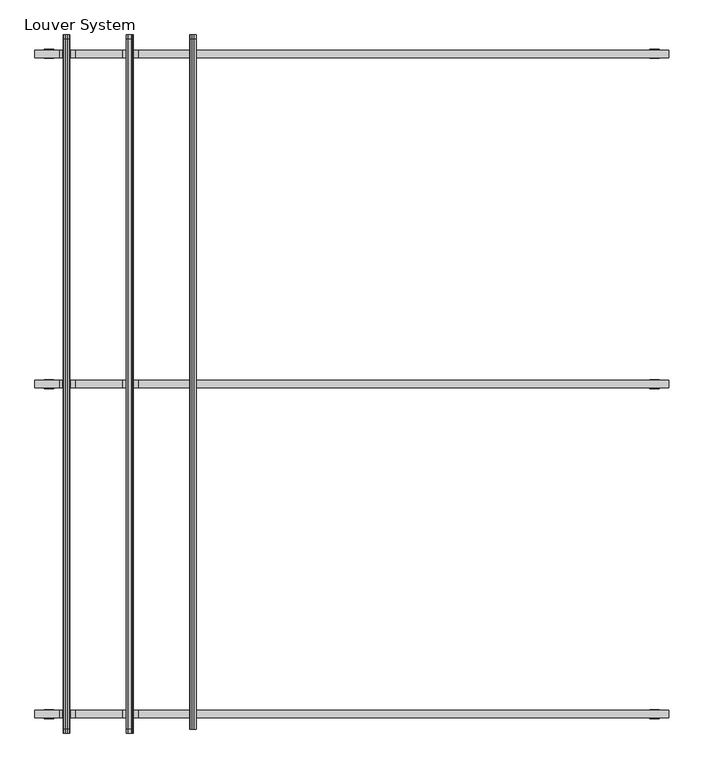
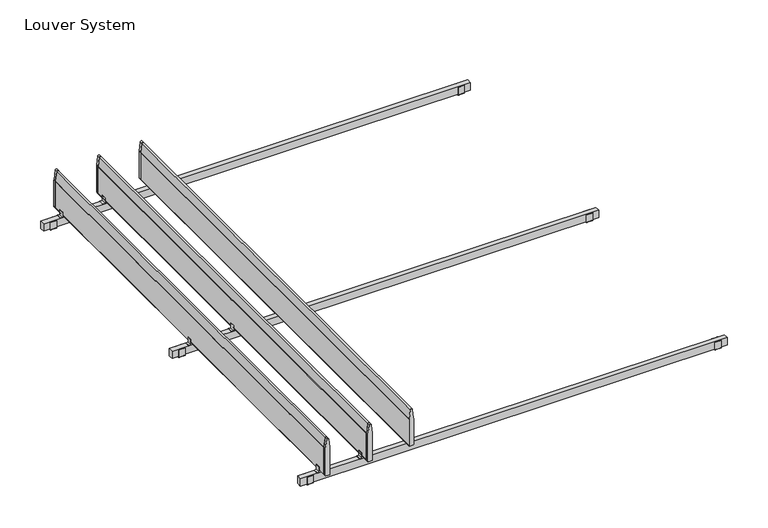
"""IFC4 building model written with IfcOpenShell, lengths in millimetres: geographic element geometry, Site_Danpal_AURA-Louvers : Louver System."""

import ifcopenshell
import ifcopenshell.guid

model = None  # the IFC model being written
_history = None  # IfcOwnerHistory: only IFC2X3 demands one
_inside = {}  # id of a spatial element -> (the spatial element, [elements in it])
_under = {}  # id of a project, library or spatial element -> (it, [spatial elements below it])
_declared = {}  # id of a project -> (the project, [libraries it declares])
_typed = {}  # id of a type object -> (the type object, [elements of that type])
_made_of = {}  # id of a material, layer set ... -> (it, [elements and type objects made of it])


def new_model(schema):
    """Start an empty IFC model of exactly this schema.

    Asked for "IFC4X3", IfcOpenShell would pick the latest addendum, in which some entities
    have other attributes; the version numbers below select the first issue.
    IFC2X3 requires an IfcOwnerHistory on every rooted entity: one is made here for all.
    """
    global model, _history
    if schema == "IFC4X3":
        model = ifcopenshell.file(schema_version=(4, 3, 0, 0))
    else:
        model = ifcopenshell.file(schema=schema)
    _inside.clear()
    _under.clear()
    _declared.clear()
    _typed.clear()
    _made_of.clear()
    _history = None
    if model.schema == "IFC2X3":
        org = make("IfcOrganization", Name="unknown")
        user = make(
            "IfcPersonAndOrganization",
            ThePerson=make("IfcPerson", FamilyName="unknown"),
            TheOrganization=org,
        )
        app = make(
            "IfcApplication",
            ApplicationDeveloper=org,
            Version="unknown",
            ApplicationFullName="unknown",
            ApplicationIdentifier="unknown",
        )
        _history = make(
            "IfcOwnerHistory",
            OwningUser=user,
            OwningApplication=app,
            ChangeAction="ADDED",
            CreationDate=0,
        )
    return model


def make(cls, **values):
    """One entity of the class cls with the attributes given. An attribute that is None is left unset."""
    return model.create_entity(
        cls, **{name: value for name, value in values.items() if value is not None}
    )


def rooted(cls, **values):
    """An entity with a GlobalId (a new one), such as an element, a storey or a relation."""
    return make(cls, GlobalId=ifcopenshell.guid.new(), OwnerHistory=_history, **values)


def si_unit(unit_type, name, prefix=None):
    """IfcSIUnit, for example si_unit("LENGTHUNIT", "METRE", prefix="MILLI")."""
    return make("IfcSIUnit", UnitType=unit_type, Prefix=prefix, Name=name)


def assignment(units):
    """IfcUnitAssignment: the units of a project."""
    return None if units is None else make("IfcUnitAssignment", Units=units)


def point(xyz):
    """IfcCartesianPoint."""
    return None if xyz is None else make("IfcCartesianPoint", Coordinates=xyz)


def direction(xyz):
    """IfcDirection."""
    return None if xyz is None else make("IfcDirection", DirectionRatios=xyz)


def frame(location, z_axis=None, x_axis=None):
    """IfcAxis2Placement3D, a coordinate frame: its origin and axes. An axis left out is left unset."""
    return make(
        "IfcAxis2Placement3D",
        Location=point(location),
        Axis=direction(z_axis),
        RefDirection=direction(x_axis),
    )


def frame_2d(location, x_axis=None):
    """IfcAxis2Placement2D, a coordinate frame in the plane: its origin and x axis."""
    return make(
        "IfcAxis2Placement2D", Location=point(location), RefDirection=direction(x_axis)
    )


def origin():
    """The frame at (0, 0, 0) with its axes left unset."""
    return frame((0.0, 0.0, 0.0))


def place(relative_to, where):
    """IfcLocalPlacement: puts the frame where relative to a parent placement (None: the world)."""
    return make(
        "IfcLocalPlacement", PlacementRelTo=relative_to, RelativePlacement=where
    )


def context(
    kind, dimensions, precision=None, world=None, true_north=None, identifier=None
):
    """IfcGeometricRepresentationContext, for example the 3D "Model" context."""
    return make(
        "IfcGeometricRepresentationContext",
        ContextIdentifier=identifier,
        ContextType=kind,
        CoordinateSpaceDimension=dimensions,
        Precision=precision,
        WorldCoordinateSystem=world,
        TrueNorth=true_north,
    )


def project(units=None, contexts=None):
    """IfcProject with its units and contexts."""
    return rooted(
        "IfcProject",
        Name="project",
        RepresentationContexts=contexts,
        UnitsInContext=assignment(units),
    )


def spatial(cls, under=None, at=None, **own):
    """A site, building, storey or space (cls), placed at a placement, below another one or the project."""
    s = rooted(cls, ObjectPlacement=at, **own)
    if under is not None:
        _under.setdefault(under.id(), (under, []))[1].append(s)
    return s


def polyline(points):
    """IfcPolyline through the points."""
    return make("IfcPolyline", Points=[point(p) for p in points])


def circle_curve(where, radius):
    """IfcCircle in the frame where."""
    return make("IfcCircle", Position=where, Radius=radius)


def trimmed(basis, trim1, trim2, sense, master):
    """IfcTrimmedCurve: the piece of a basis curve between two trims."""
    return make(
        "IfcTrimmedCurve",
        BasisCurve=basis,
        Trim1=trim1,
        Trim2=trim2,
        SenseAgreement=sense,
        MasterRepresentation=master,
    )


def segment(curve, same_sense, transition):
    """IfcCompositeCurveSegment."""
    return make(
        "IfcCompositeCurveSegment",
        Transition=transition,
        SameSense=same_sense,
        ParentCurve=curve,
    )


def composite_curve(segments, self_intersect=None):
    """IfcCompositeCurve: segments joined end to end."""
    return make("IfcCompositeCurve", Segments=segments, SelfIntersect=self_intersect)


def outline(outer, holes=None, kind="AREA"):
    """IfcArbitraryClosedProfileDef: a profile drawn as a closed curve; with holes, ...WithVoids."""
    if holes is None:
        return make("IfcArbitraryClosedProfileDef", ProfileType=kind, OuterCurve=outer)
    return make(
        "IfcArbitraryProfileDefWithVoids",
        ProfileType=kind,
        OuterCurve=outer,
        InnerCurves=holes,
    )


def extrude(swept, where, along, depth):
    """IfcExtrudedAreaSolid: the profile swept, set in the frame where, extruded along a direction by depth."""
    return make(
        "IfcExtrudedAreaSolid",
        SweptArea=swept,
        Position=where,
        ExtrudedDirection=direction(along),
        Depth=depth,
    )


def shape(context_of_items, identifier, shape_type, items):
    """IfcShapeRepresentation: the items that make up one representation, for example the "Body"."""
    return make(
        "IfcShapeRepresentation",
        ContextOfItems=context_of_items,
        RepresentationIdentifier=identifier,
        RepresentationType=shape_type,
        Items=items,
    )


def source(mapping_origin, context_of_items, identifier, shape_type, items):
    """IfcRepresentationMap: a shape defined once, which mapped items show again and again."""
    return make(
        "IfcRepresentationMap",
        MappingOrigin=mapping_origin,
        MappedRepresentation=shape(context_of_items, identifier, shape_type, items),
    )


def transform(
    local_origin,
    x_axis=None,
    y_axis=None,
    z_axis=None,
    scale=None,
    scale2=None,
    scale3=None,
    uniform=True,
):
    """IfcCartesianTransformationOperator3D, or its non-uniform kind. x_axis, y_axis, z_axis: its Axis1, 2, 3."""
    if uniform:
        return make(
            "IfcCartesianTransformationOperator3D",
            Axis1=direction(x_axis),
            Axis2=direction(y_axis),
            LocalOrigin=point(local_origin),
            Scale=scale,
            Axis3=direction(z_axis),
        )
    return make(
        "IfcCartesianTransformationOperator3DnonUniform",
        Axis1=direction(x_axis),
        Axis2=direction(y_axis),
        LocalOrigin=point(local_origin),
        Scale=scale,
        Axis3=direction(z_axis),
        Scale2=scale2,
        Scale3=scale3,
    )


def mapped(mapping_source, mapping_target):
    """IfcMappedItem: shows the shape of a source again, moved by a transform."""
    return make(
        "IfcMappedItem", MappingSource=mapping_source, MappingTarget=mapping_target
    )


def made_of(thing, what):
    """Note that an element or type object is made of a material, layer set ...; save() writes the relation."""
    if what is not None:
        _made_of.setdefault(what.id(), (what, []))[1].append(thing)
    return thing


def element(
    cls,
    number,
    at=None,
    inside=None,
    cuts=None,
    type_object=None,
    material=None,
    context=None,
    identifier="Body",
    shape_type=None,
    held_by="IfcProductDefinitionShape",
    body=None,
    shapes=None,
    **own,
):
    """One element of the class cls, such as IfcWall. Its Tag is "e" and its number.

    at: its placement. inside: the storey or other place that contains it. cuts: it is an
    opening in that element (IfcRelVoidsElement). A single representation is given by context,
    identifier, shape_type and body (its items); several are given by shapes. held_by: the class
    of the entity that holds the representations. save() writes the other relations.
    """
    e = rooted(cls, Tag="e%d" % number, ObjectPlacement=at, **own)
    if body is not None:
        shapes = [shape(context, identifier, shape_type, body)]
    if shapes is not None:
        e.Representation = make(held_by, Representations=shapes)
    if inside is not None:
        _inside.setdefault(inside.id(), (inside, []))[1].append(e)
    if cuts is not None:
        rooted(
            "IfcRelVoidsElement", RelatingBuildingElement=cuts, RelatedOpeningElement=e
        )
    if type_object is not None:
        _typed.setdefault(type_object.id(), (type_object, []))[1].append(e)
    return made_of(e, material)


def aggregate(whole, parts):
    """IfcRelAggregates: a whole, such as a stair, and the parts it consists of."""
    return rooted("IfcRelAggregates", RelatingObject=whole, RelatedObjects=parts)


def save(model, path):
    """Write the relations noted so far, then the file.

    IfcRelAggregates (storeys below a building ...), IfcRelContainedInSpatialStructure (elements
    in a storey), IfcRelDefinesByType, IfcRelAssociatesMaterial and IfcRelDeclares: one each for
    every whole, place, type object, material and project.
    """
    for whole, parts in _under.values():
        aggregate(whole, parts)
    for where, things in _inside.values():
        rooted(
            "IfcRelContainedInSpatialStructure",
            RelatedElements=things,
            RelatingStructure=where,
        )
    for kind, things in _typed.values():
        rooted("IfcRelDefinesByType", RelatedObjects=things, RelatingType=kind)
    for what, things in _made_of.values():
        rooted("IfcRelAssociatesMaterial", RelatedObjects=things, RelatingMaterial=what)
    for by, libraries in _declared.values():
        rooted("IfcRelDeclares", RelatingContext=by, RelatedDefinitions=libraries)
    model.write(path)


def louver_system_3ba4f6a6(model_context):
    return source(origin(), model_context, "Body", "SweptSolid", [
        extrude(outline(composite_curve([segment(trimmed(circle_curve(frame_2d((309.4816555, -845.1)), 32.6237184), [point((309.4816555, -812.4762816))], [point((313.7306269, -812.7541619))], False, "CARTESIAN"), True, "CONTINUOUS"), segment(polyline([(313.7306269, -812.7541619), (387.4745822, -822.4412184)]), True, "CONTINUOUS"), segment(trimmed(circle_curve(frame_2d((386.4816555, -830.0)), 7.6237184), [point((387.4745822, -822.4412184))], [point((387.4745822, -837.5587816))], False, "CARTESIAN"), True, "CONTINUOUS"), segment(polyline([(387.4745822, -837.5587816), (313.7306269, -847.2458381)]), True, "CONTINUOUS"), segment(trimmed(circle_curve(frame_2d((309.4816555, -814.9)), 32.6237184), [point((313.7306269, -847.2458381))], [point((309.4816555, -847.5237184))], False, "CARTESIAN"), True, "CONTINUOUS"), segment(polyline([(309.4816555, -847.5237184), (90.2816555, -847.5237184)]), True, "CONTINUOUS"), segment(trimmed(circle_curve(frame_2d((90.2816555, -845.1)), 2.4237184), [point((90.2816555, -847.5237184))], [point((87.857937, -845.1))], False, "CARTESIAN"), True, "CONTINUOUS"), segment(polyline([(87.857937, -845.1), (87.857937, -814.9)]), True, "CONTINUOUS"), segment(trimmed(circle_curve(frame_2d((90.2816555, -814.9)), 2.4237184), [point((87.857937, -814.9))], [point((90.2816555, -812.4762816))], False, "CARTESIAN"), True, "CONTINUOUS"), segment(polyline([(90.2816555, -812.4762816), (309.4816555, -812.4762816)]), True, "CONTINUOUS")], self_intersect=False)), frame((0.0, 2555.0, 0.0), z_axis=(0.0, 1.0, 0.0), x_axis=(0.0, 0.0, 1.0)), (0.0, 0.0, 1.0), 20.0),
        extrude(outline(composite_curve([segment(trimmed(circle_curve(frame_2d((309.4816555, -845.1)), 32.6237184), [point((309.4816555, -812.4762816))], [point((313.7306269, -812.7541619))], False, "CARTESIAN"), True, "CONTINUOUS"), segment(polyline([(313.7306269, -812.7541619), (387.4745822, -822.4412184)]), True, "CONTINUOUS"), segment(trimmed(circle_curve(frame_2d((386.4816555, -830.0)), 7.6237184), [point((387.4745822, -822.4412184))], [point((387.4745822, -837.5587816))], False, "CARTESIAN"), True, "CONTINUOUS"), segment(polyline([(387.4745822, -837.5587816), (313.7306269, -847.2458381)]), True, "CONTINUOUS"), segment(trimmed(circle_curve(frame_2d((309.4816555, -814.9)), 32.6237184), [point((313.7306269, -847.2458381))], [point((309.4816555, -847.5237184))], False, "CARTESIAN"), True, "CONTINUOUS"), segment(polyline([(309.4816555, -847.5237184), (90.2816555, -847.5237184)]), True, "CONTINUOUS"), segment(trimmed(circle_curve(frame_2d((90.2816555, -845.1)), 2.4237184), [point((90.2816555, -847.5237184))], [point((87.857937, -845.1))], False, "CARTESIAN"), True, "CONTINUOUS"), segment(polyline([(87.857937, -845.1), (87.857937, -814.9)]), True, "CONTINUOUS"), segment(trimmed(circle_curve(frame_2d((90.2816555, -814.9)), 2.4237184), [point((87.857937, -814.9))], [point((90.2816555, -812.4762816))], False, "CARTESIAN"), True, "CONTINUOUS"), segment(polyline([(90.2816555, -812.4762816), (309.4816555, -812.4762816)]), True, "CONTINUOUS")], self_intersect=False)), frame((0.0, -1104.9281148, 0.0), z_axis=(0.0, 1.0, 0.0), x_axis=(0.0, 0.0, 1.0)), (0.0, 0.0, 1.0), 3659.9281148),
        extrude(outline(polyline([(70.2801886, -1183.9348987), (70.2801886, -1201.6559592), (67.6474895, -1201.6559592), (67.6474895, -1119.9775924), (70.1690862, -1119.9775924), (70.1690862, -1145.6822147), (74.0275948, -1145.6822147), (113.6946905, -1145.6822147), (114.4461851, -1147.4762816), (87.857937, -1147.4762816), (87.857937, -1182.5237184), (113.8713724, -1182.5237184), (112.7974197, -1183.9348987), (70.2801886, -1183.9348987)])), frame((0.0, -1045.0, 0.0), z_axis=(0.0, 1.0, 0.0), x_axis=(0.0, 0.0, 1.0)), (0.0, 0.0, 1.0), 40.0),
        extrude(outline(polyline([(70.2801886, -1183.9348987), (70.2801886, -1201.6559592), (67.6474895, -1201.6559592), (67.6474895, -1119.9775924), (70.1690862, -1119.9775924), (70.1690862, -1145.6822147), (74.0275948, -1145.6822147), (113.6946905, -1145.6822147), (114.4461851, -1147.4762816), (87.857937, -1147.4762816), (87.857937, -1182.5237184), (113.8713724, -1182.5237184), (112.7974197, -1183.9348987), (70.2801886, -1183.9348987)])), frame((0.0, 705.0, 0.0), z_axis=(0.0, 1.0, 0.0), x_axis=(0.0, 0.0, 1.0)), (0.0, 0.0, 1.0), 40.0),
        extrude(outline(polyline([(70.2801886, -1183.9348987), (70.2801886, -1201.6559592), (67.6474895, -1201.6559592), (67.6474895, -1119.9775924), (70.1690862, -1119.9775924), (70.1690862, -1145.6822147), (74.0275948, -1145.6822147), (113.6946905, -1145.6822147), (114.4461851, -1147.4762816), (87.857937, -1147.4762816), (87.857937, -1182.5237184), (113.8713724, -1182.5237184), (112.7974197, -1183.9348987), (70.2801886, -1183.9348987)])), frame((0.0, 2455.0, 0.0), z_axis=(0.0, 1.0, 0.0), x_axis=(0.0, 0.0, 1.0)), (0.0, 0.0, 1.0), 40.0),
        extrude(outline(composite_curve([segment(trimmed(circle_curve(frame_2d((309.4816555, -1180.1)), 32.6237184), [point((309.4816555, -1147.4762816))], [point((313.7306269, -1147.7541619))], False, "CARTESIAN"), True, "CONTINUOUS"), segment(polyline([(313.7306269, -1147.7541619), (387.4745822, -1157.4412184)]), True, "CONTINUOUS"), segment(trimmed(circle_curve(frame_2d((386.4816555, -1165.0)), 7.6237184), [point((387.4745822, -1157.4412184))], [point((387.4745822, -1172.5587816))], False, "CARTESIAN"), True, "CONTINUOUS"), segment(polyline([(387.4745822, -1172.5587816), (313.7306269, -1182.2458381)]), True, "CONTINUOUS"), segment(trimmed(circle_curve(frame_2d((309.4816555, -1149.9)), 32.6237184), [point((313.7306269, -1182.2458381))], [point((309.4816555, -1182.5237184))], False, "CARTESIAN"), True, "CONTINUOUS"), segment(polyline([(309.4816555, -1182.5237184), (90.2816555, -1182.5237184)]), True, "CONTINUOUS"), segment(trimmed(circle_curve(frame_2d((90.2816555, -1180.1)), 2.4237184), [point((90.2816555, -1182.5237184))], [point((87.857937, -1180.1))], False, "CARTESIAN"), True, "CONTINUOUS"), segment(polyline([(87.857937, -1180.1), (87.857937, -1149.9)]), True, "CONTINUOUS"), segment(trimmed(circle_curve(frame_2d((90.2816555, -1149.9)), 2.4237184), [point((87.857937, -1149.9))], [point((90.2816555, -1147.4762816))], False, "CARTESIAN"), True, "CONTINUOUS"), segment(polyline([(90.2816555, -1147.4762816), (309.4816555, -1147.4762816)]), True, "CONTINUOUS")], self_intersect=False)), frame((0.0, -1125.0, 0.0), z_axis=(0.0, 1.0, 0.0), x_axis=(0.0, 0.0, 1.0)), (0.0, 0.0, 1.0), 20.0718852),
        extrude(outline(composite_curve([segment(trimmed(circle_curve(frame_2d((309.4816555, -1180.1)), 32.6237184), [point((309.4816555, -1147.4762816))], [point((313.7306269, -1147.7541619))], False, "CARTESIAN"), True, "CONTINUOUS"), segment(polyline([(313.7306269, -1147.7541619), (387.4745822, -1157.4412184)]), True, "CONTINUOUS"), segment(trimmed(circle_curve(frame_2d((386.4816555, -1165.0)), 7.6237184), [point((387.4745822, -1157.4412184))], [point((387.4745822, -1172.5587816))], False, "CARTESIAN"), True, "CONTINUOUS"), segment(polyline([(387.4745822, -1172.5587816), (313.7306269, -1182.2458381)]), True, "CONTINUOUS"), segment(trimmed(circle_curve(frame_2d((309.4816555, -1149.9)), 32.6237184), [point((313.7306269, -1182.2458381))], [point((309.4816555, -1182.5237184))], False, "CARTESIAN"), True, "CONTINUOUS"), segment(polyline([(309.4816555, -1182.5237184), (90.2816555, -1182.5237184)]), True, "CONTINUOUS"), segment(trimmed(circle_curve(frame_2d((90.2816555, -1180.1)), 2.4237184), [point((90.2816555, -1182.5237184))], [point((87.857937, -1180.1))], False, "CARTESIAN"), True, "CONTINUOUS"), segment(polyline([(87.857937, -1180.1), (87.857937, -1149.9)]), True, "CONTINUOUS"), segment(trimmed(circle_curve(frame_2d((90.2816555, -1149.9)), 2.4237184), [point((87.857937, -1149.9))], [point((90.2816555, -1147.4762816))], False, "CARTESIAN"), True, "CONTINUOUS"), segment(polyline([(90.2816555, -1147.4762816), (309.4816555, -1147.4762816)]), True, "CONTINUOUS")], self_intersect=False)), frame((0.0, 2555.0, 0.0), z_axis=(0.0, 1.0, 0.0), x_axis=(0.0, 0.0, 1.0)), (0.0, 0.0, 1.0), 20.0),
        extrude(outline(composite_curve([segment(trimmed(circle_curve(frame_2d((309.4816555, -1180.1)), 32.6237184), [point((309.4816555, -1147.4762816))], [point((313.7306269, -1147.7541619))], False, "CARTESIAN"), True, "CONTINUOUS"), segment(polyline([(313.7306269, -1147.7541619), (387.4745822, -1157.4412184)]), True, "CONTINUOUS"), segment(trimmed(circle_curve(frame_2d((386.4816555, -1165.0)), 7.6237184), [point((387.4745822, -1157.4412184))], [point((387.4745822, -1172.5587816))], False, "CARTESIAN"), True, "CONTINUOUS"), segment(polyline([(387.4745822, -1172.5587816), (313.7306269, -1182.2458381)]), True, "CONTINUOUS"), segment(trimmed(circle_curve(frame_2d((309.4816555, -1149.9)), 32.6237184), [point((313.7306269, -1182.2458381))], [point((309.4816555, -1182.5237184))], False, "CARTESIAN"), True, "CONTINUOUS"), segment(polyline([(309.4816555, -1182.5237184), (90.2816555, -1182.5237184)]), True, "CONTINUOUS"), segment(trimmed(circle_curve(frame_2d((90.2816555, -1180.1)), 2.4237184), [point((90.2816555, -1182.5237184))], [point((87.857937, -1180.1))], False, "CARTESIAN"), True, "CONTINUOUS"), segment(polyline([(87.857937, -1180.1), (87.857937, -1149.9)]), True, "CONTINUOUS"), segment(trimmed(circle_curve(frame_2d((90.2816555, -1149.9)), 2.4237184), [point((87.857937, -1149.9))], [point((90.2816555, -1147.4762816))], False, "CARTESIAN"), True, "CONTINUOUS"), segment(polyline([(90.2816555, -1147.4762816), (309.4816555, -1147.4762816)]), True, "CONTINUOUS")], self_intersect=False)), frame((0.0, -1104.9281148, 0.0), z_axis=(0.0, 1.0, 0.0), x_axis=(0.0, 0.0, 1.0)), (0.0, 0.0, 1.0), 3659.9281148),
        extrude(outline(composite_curve([segment(trimmed(circle_curve(frame_2d((2494.0001074, 3.9999684)), 3.9999684), [point((2498.0000758, 3.9999684))], [point((2494.0001074, 0.0))], False, "CARTESIAN"), True, "CONTINUOUS"), segment(polyline([(2494.0001074, 0.0), (2454.8000442, 0.0)]), True, "CONTINUOUS"), segment(trimmed(circle_curve(frame_2d((2454.8000442, 3.9999684)), 3.9999684), [point((2454.8000442, 0.0))], [point((2450.8000758, 3.9999684))], False, "CARTESIAN"), True, "CONTINUOUS"), segment(polyline([(2450.8000758, 3.9999684), (2450.8000758, 66.0607794), (2453.8000758, 66.0607794), (2453.8000758, 4.1675701)]), True, "CONTINUOUS"), segment(trimmed(circle_curve(frame_2d((2454.7689464, 4.1675701)), 0.9688707), [point((2453.8000758, 4.1675701))], [point((2454.7689464, 3.1986994))], True, "CARTESIAN"), True, "CONTINUOUS"), segment(polyline([(2454.7689464, 3.1986994), (2493.9692646, 3.1986994)]), True, "CONTINUOUS"), segment(trimmed(circle_curve(frame_2d((2493.9692646, 4.2295106)), 1.0308112), [point((2493.9692646, 3.1986994))], [point((2495.0000758, 4.2295106))], True, "CARTESIAN"), True, "CONTINUOUS"), segment(polyline([(2495.0000758, 4.2295106), (2495.0000758, 66.0607794), (2498.0000758, 66.0607794), (2498.0000758, 3.9999684)]), True, "CONTINUOUS")], self_intersect=False)), frame((-1617.7915116, 0.0, 0.0), z_axis=(1.0, 0.0, 0.0), x_axis=(0.0, 1.0, 0.0)), (0.0, 0.0, 1.0), 50.136877),
        extrude(outline(composite_curve([segment(trimmed(circle_curve(frame_2d((2494.0001074, 3.9999684)), 3.9999684), [point((2498.0000758, 3.9999684))], [point((2494.0001074, 0.0))], False, "CARTESIAN"), True, "CONTINUOUS"), segment(polyline([(2494.0001074, 0.0), (2454.8000442, 0.0)]), True, "CONTINUOUS"), segment(trimmed(circle_curve(frame_2d((2454.8000442, 3.9999684)), 3.9999684), [point((2454.8000442, 0.0))], [point((2450.8000758, 3.9999684))], False, "CARTESIAN"), True, "CONTINUOUS"), segment(polyline([(2450.8000758, 3.9999684), (2450.8000758, 66.0607794), (2453.8000758, 66.0607794), (2453.8000758, 4.1675701)]), True, "CONTINUOUS"), segment(trimmed(circle_curve(frame_2d((2454.7689464, 4.1675701)), 0.9688707), [point((2453.8000758, 4.1675701))], [point((2454.7689464, 3.1986994))], True, "CARTESIAN"), True, "CONTINUOUS"), segment(polyline([(2454.7689464, 3.1986994), (2493.9692646, 3.1986994)]), True, "CONTINUOUS"), segment(trimmed(circle_curve(frame_2d((2493.9692646, 4.2295106)), 1.0308112), [point((2493.9692646, 3.1986994))], [point((2495.0000758, 4.2295106))], True, "CARTESIAN"), True, "CONTINUOUS"), segment(polyline([(2495.0000758, 4.2295106), (2495.0000758, 66.0607794), (2498.0000758, 66.0607794), (2498.0000758, 3.9999684)]), True, "CONTINUOUS")], self_intersect=False)), frame((1591.3546347, 0.0, 0.0), z_axis=(1.0, 0.0, 0.0), x_axis=(0.0, 1.0, 0.0)), (0.0, 0.0, 1.0), 50.136877),
        extrude(outline(polyline([(-1667.5, 2455.0), (-1667.5, 2495.0000758), (1691.2, 2495.0000758), (1691.2, 2455.0), (-1667.5, 2455.0)])), frame((0.0, 0.0, 7.6024905), z_axis=(0.0, 0.0, 1.0), x_axis=(1.0, 0.0, 0.0)), (0.0, 0.0, 1.0), 59.9995261),
        extrude(outline(composite_curve([segment(trimmed(circle_curve(frame_2d((744.0001074, 3.9999684)), 3.9999684), [point((748.0000758, 3.9999684))], [point((744.0001074, 0.0))], False, "CARTESIAN"), True, "CONTINUOUS"), segment(polyline([(744.0001074, 0.0), (704.8000442, 0.0)]), True, "CONTINUOUS"), segment(trimmed(circle_curve(frame_2d((704.8000442, 3.9999684)), 3.9999684), [point((704.8000442, 0.0))], [point((700.8000758, 3.9999684))], False, "CARTESIAN"), True, "CONTINUOUS"), segment(polyline([(700.8000758, 3.9999684), (700.8000758, 66.0607794), (703.8000758, 66.0607794), (703.8000758, 4.1675701)]), True, "CONTINUOUS"), segment(trimmed(circle_curve(frame_2d((704.7689464, 4.1675701)), 0.9688707), [point((703.8000758, 4.1675701))], [point((704.7689464, 3.1986994))], True, "CARTESIAN"), True, "CONTINUOUS"), segment(polyline([(704.7689464, 3.1986994), (743.9692646, 3.1986994)]), True, "CONTINUOUS"), segment(trimmed(circle_curve(frame_2d((743.9692646, 4.2295106)), 1.0308112), [point((743.9692646, 3.1986994))], [point((745.0000758, 4.2295106))], True, "CARTESIAN"), True, "CONTINUOUS"), segment(polyline([(745.0000758, 4.2295106), (745.0000758, 66.0607794), (748.0000758, 66.0607794), (748.0000758, 3.9999684)]), True, "CONTINUOUS")], self_intersect=False)), frame((-1617.7915116, 0.0, 0.0), z_axis=(1.0, 0.0, 0.0), x_axis=(0.0, 1.0, 0.0)), (0.0, 0.0, 1.0), 50.136877),
        extrude(outline(composite_curve([segment(trimmed(circle_curve(frame_2d((744.0001074, 3.9999684)), 3.9999684), [point((748.0000758, 3.9999684))], [point((744.0001074, 0.0))], False, "CARTESIAN"), True, "CONTINUOUS"), segment(polyline([(744.0001074, 0.0), (704.8000442, 0.0)]), True, "CONTINUOUS"), segment(trimmed(circle_curve(frame_2d((704.8000442, 3.9999684)), 3.9999684), [point((704.8000442, 0.0))], [point((700.8000758, 3.9999684))], False, "CARTESIAN"), True, "CONTINUOUS"), segment(polyline([(700.8000758, 3.9999684), (700.8000758, 66.0607794), (703.8000758, 66.0607794), (703.8000758, 4.1675701)]), True, "CONTINUOUS"), segment(trimmed(circle_curve(frame_2d((704.7689464, 4.1675701)), 0.9688707), [point((703.8000758, 4.1675701))], [point((704.7689464, 3.1986994))], True, "CARTESIAN"), True, "CONTINUOUS"), segment(polyline([(704.7689464, 3.1986994), (743.9692646, 3.1986994)]), True, "CONTINUOUS"), segment(trimmed(circle_curve(frame_2d((743.9692646, 4.2295106)), 1.0308112), [point((743.9692646, 3.1986994))], [point((745.0000758, 4.2295106))], True, "CARTESIAN"), True, "CONTINUOUS"), segment(polyline([(745.0000758, 4.2295106), (745.0000758, 66.0607794), (748.0000758, 66.0607794), (748.0000758, 3.9999684)]), True, "CONTINUOUS")], self_intersect=False)), frame((1591.3546347, 0.0, 0.0), z_axis=(1.0, 0.0, 0.0), x_axis=(0.0, 1.0, 0.0)), (0.0, 0.0, 1.0), 50.136877),
        extrude(outline(polyline([(-1667.5, 705.0), (-1667.5, 745.0000758), (1691.2, 745.0000758), (1691.2, 705.0), (-1667.5, 705.0)])), frame((0.0, 0.0, 7.6024905), z_axis=(0.0, 0.0, 1.0), x_axis=(1.0, 0.0, 0.0)), (0.0, 0.0, 1.0), 59.9995261),
        extrude(outline(polyline([(70.2801886, -1518.9348987), (70.2801886, -1536.6559592), (67.6474895, -1536.6559592), (67.6474895, -1454.9775924), (70.1690862, -1454.9775924), (70.1690862, -1480.6822147), (74.0275948, -1480.6822147), (113.6946905, -1480.6822147), (114.4461851, -1482.4762816), (87.857937, -1482.4762816), (87.857937, -1517.5237184), (113.8713724, -1517.5237184), (112.7974197, -1518.9348987), (70.2801886, -1518.9348987)])), frame((0.0, -1045.0, 0.0), z_axis=(0.0, 1.0, 0.0), x_axis=(0.0, 0.0, 1.0)), (0.0, 0.0, 1.0), 40.0),
        extrude(outline(polyline([(70.2801886, -1518.9348987), (70.2801886, -1536.6559592), (67.6474895, -1536.6559592), (67.6474895, -1454.9775924), (70.1690862, -1454.9775924), (70.1690862, -1480.6822147), (74.0275948, -1480.6822147), (113.6946905, -1480.6822147), (114.4461851, -1482.4762816), (87.857937, -1482.4762816), (87.857937, -1517.5237184), (113.8713724, -1517.5237184), (112.7974197, -1518.9348987), (70.2801886, -1518.9348987)])), frame((0.0, 705.0, 0.0), z_axis=(0.0, 1.0, 0.0), x_axis=(0.0, 0.0, 1.0)), (0.0, 0.0, 1.0), 40.0),
        extrude(outline(polyline([(70.2801886, -1518.9348987), (70.2801886, -1536.6559592), (67.6474895, -1536.6559592), (67.6474895, -1454.9775924), (70.1690862, -1454.9775924), (70.1690862, -1480.6822147), (74.0275948, -1480.6822147), (113.6946905, -1480.6822147), (114.4461851, -1482.4762816), (87.857937, -1482.4762816), (87.857937, -1517.5237184), (113.8713724, -1517.5237184), (112.7974197, -1518.9348987), (70.2801886, -1518.9348987)])), frame((0.0, 2455.0, 0.0), z_axis=(0.0, 1.0, 0.0), x_axis=(0.0, 0.0, 1.0)), (0.0, 0.0, 1.0), 40.0),
        extrude(outline(composite_curve([segment(trimmed(circle_curve(frame_2d((309.4816555, -1515.1)), 32.6237184), [point((309.4816555, -1482.4762816))], [point((313.7306269, -1482.7541619))], False, "CARTESIAN"), True, "CONTINUOUS"), segment(polyline([(313.7306269, -1482.7541619), (387.4745822, -1492.4412184)]), True, "CONTINUOUS"), segment(trimmed(circle_curve(frame_2d((386.4816555, -1500.0)), 7.6237184), [point((387.4745822, -1492.4412184))], [point((387.4745822, -1507.5587816))], False, "CARTESIAN"), True, "CONTINUOUS"), segment(polyline([(387.4745822, -1507.5587816), (313.7306269, -1517.2458381)]), True, "CONTINUOUS"), segment(trimmed(circle_curve(frame_2d((309.4816555, -1484.9)), 32.6237184), [point((313.7306269, -1517.2458381))], [point((309.4816555, -1517.5237184))], False, "CARTESIAN"), True, "CONTINUOUS"), segment(polyline([(309.4816555, -1517.5237184), (90.2816555, -1517.5237184)]), True, "CONTINUOUS"), segment(trimmed(circle_curve(frame_2d((90.2816555, -1515.1)), 2.4237184), [point((90.2816555, -1517.5237184))], [point((87.857937, -1515.1))], False, "CARTESIAN"), True, "CONTINUOUS"), segment(polyline([(87.857937, -1515.1), (87.857937, -1484.9)]), True, "CONTINUOUS"), segment(trimmed(circle_curve(frame_2d((90.2816555, -1484.9)), 2.4237184), [point((87.857937, -1484.9))], [point((90.2816555, -1482.4762816))], False, "CARTESIAN"), True, "CONTINUOUS"), segment(polyline([(90.2816555, -1482.4762816), (309.4816555, -1482.4762816)]), True, "CONTINUOUS")], self_intersect=False)), frame((0.0, -1125.0, 0.0), z_axis=(0.0, 1.0, 0.0), x_axis=(0.0, 0.0, 1.0)), (0.0, 0.0, 1.0), 20.0718852),
        extrude(outline(composite_curve([segment(trimmed(circle_curve(frame_2d((309.4816555, -1515.1)), 32.6237184), [point((309.4816555, -1482.4762816))], [point((313.7306269, -1482.7541619))], False, "CARTESIAN"), True, "CONTINUOUS"), segment(polyline([(313.7306269, -1482.7541619), (387.4745822, -1492.4412184)]), True, "CONTINUOUS"), segment(trimmed(circle_curve(frame_2d((386.4816555, -1500.0)), 7.6237184), [point((387.4745822, -1492.4412184))], [point((387.4745822, -1507.5587816))], False, "CARTESIAN"), True, "CONTINUOUS"), segment(polyline([(387.4745822, -1507.5587816), (313.7306269, -1517.2458381)]), True, "CONTINUOUS"), segment(trimmed(circle_curve(frame_2d((309.4816555, -1484.9)), 32.6237184), [point((313.7306269, -1517.2458381))], [point((309.4816555, -1517.5237184))], False, "CARTESIAN"), True, "CONTINUOUS"), segment(polyline([(309.4816555, -1517.5237184), (90.2816555, -1517.5237184)]), True, "CONTINUOUS"), segment(trimmed(circle_curve(frame_2d((90.2816555, -1515.1)), 2.4237184), [point((90.2816555, -1517.5237184))], [point((87.857937, -1515.1))], False, "CARTESIAN"), True, "CONTINUOUS"), segment(polyline([(87.857937, -1515.1), (87.857937, -1484.9)]), True, "CONTINUOUS"), segment(trimmed(circle_curve(frame_2d((90.2816555, -1484.9)), 2.4237184), [point((87.857937, -1484.9))], [point((90.2816555, -1482.4762816))], False, "CARTESIAN"), True, "CONTINUOUS"), segment(polyline([(90.2816555, -1482.4762816), (309.4816555, -1482.4762816)]), True, "CONTINUOUS")], self_intersect=False)), frame((0.0, 2555.0, 0.0), z_axis=(0.0, 1.0, 0.0), x_axis=(0.0, 0.0, 1.0)), (0.0, 0.0, 1.0), 20.0),
        extrude(outline(composite_curve([segment(trimmed(circle_curve(frame_2d((309.4816555, -1515.1)), 32.6237184), [point((309.4816555, -1482.4762816))], [point((313.7306269, -1482.7541619))], False, "CARTESIAN"), True, "CONTINUOUS"), segment(polyline([(313.7306269, -1482.7541619), (387.4745822, -1492.4412184)]), True, "CONTINUOUS"), segment(trimmed(circle_curve(frame_2d((386.4816555, -1500.0)), 7.6237184), [point((387.4745822, -1492.4412184))], [point((387.4745822, -1507.5587816))], False, "CARTESIAN"), True, "CONTINUOUS"), segment(polyline([(387.4745822, -1507.5587816), (313.7306269, -1517.2458381)]), True, "CONTINUOUS"), segment(trimmed(circle_curve(frame_2d((309.4816555, -1484.9)), 32.6237184), [point((313.7306269, -1517.2458381))], [point((309.4816555, -1517.5237184))], False, "CARTESIAN"), True, "CONTINUOUS"), segment(polyline([(309.4816555, -1517.5237184), (90.2816555, -1517.5237184)]), True, "CONTINUOUS"), segment(trimmed(circle_curve(frame_2d((90.2816555, -1515.1)), 2.4237184), [point((90.2816555, -1517.5237184))], [point((87.857937, -1515.1))], False, "CARTESIAN"), True, "CONTINUOUS"), segment(polyline([(87.857937, -1515.1), (87.857937, -1484.9)]), True, "CONTINUOUS"), segment(trimmed(circle_curve(frame_2d((90.2816555, -1484.9)), 2.4237184), [point((87.857937, -1484.9))], [point((90.2816555, -1482.4762816))], False, "CARTESIAN"), True, "CONTINUOUS"), segment(polyline([(90.2816555, -1482.4762816), (309.4816555, -1482.4762816)]), True, "CONTINUOUS")], self_intersect=False)), frame((0.0, -1104.9281148, 0.0), z_axis=(0.0, 1.0, 0.0), x_axis=(0.0, 0.0, 1.0)), (0.0, 0.0, 1.0), 3659.9281148),
        extrude(outline(composite_curve([segment(trimmed(circle_curve(frame_2d((-1005.9998926, 3.9999684)), 3.9999684), [point((-1001.9999242, 3.9999684))], [point((-1005.9998926, 0.0))], False, "CARTESIAN"), True, "CONTINUOUS"), segment(polyline([(-1005.9998926, 0.0), (-1045.1999558, 0.0)]), True, "CONTINUOUS"), segment(trimmed(circle_curve(frame_2d((-1045.1999558, 3.9999684)), 3.9999684), [point((-1045.1999558, 0.0))], [point((-1049.1999242, 3.9999684))], False, "CARTESIAN"), True, "CONTINUOUS"), segment(polyline([(-1049.1999242, 3.9999684), (-1049.1999242, 66.0607794), (-1046.1999242, 66.0607794), (-1046.1999242, 4.1675701)]), True, "CONTINUOUS"), segment(trimmed(circle_curve(frame_2d((-1045.2310536, 4.1675701)), 0.9688707), [point((-1046.1999242, 4.1675701))], [point((-1045.2310536, 3.1986994))], True, "CARTESIAN"), True, "CONTINUOUS"), segment(polyline([(-1045.2310536, 3.1986994), (-1006.0307354, 3.1986994)]), True, "CONTINUOUS"), segment(trimmed(circle_curve(frame_2d((-1006.0307354, 4.2295106)), 1.0308112), [point((-1006.0307354, 3.1986994))], [point((-1004.9999242, 4.2295106))], True, "CARTESIAN"), True, "CONTINUOUS"), segment(polyline([(-1004.9999242, 4.2295106), (-1004.9999242, 66.0607794), (-1001.9999242, 66.0607794), (-1001.9999242, 3.9999684)]), True, "CONTINUOUS")], self_intersect=False)), frame((-1617.7915116, 0.0, 0.0), z_axis=(1.0, 0.0, 0.0), x_axis=(0.0, 1.0, 0.0)), (0.0, 0.0, 1.0), 50.136877),
        extrude(outline(composite_curve([segment(trimmed(circle_curve(frame_2d((-1005.9998926, 3.9999684)), 3.9999684), [point((-1001.9999242, 3.9999684))], [point((-1005.9998926, 0.0))], False, "CARTESIAN"), True, "CONTINUOUS"), segment(polyline([(-1005.9998926, 0.0), (-1045.1999558, 0.0)]), True, "CONTINUOUS"), segment(trimmed(circle_curve(frame_2d((-1045.1999558, 3.9999684)), 3.9999684), [point((-1045.1999558, 0.0))], [point((-1049.1999242, 3.9999684))], False, "CARTESIAN"), True, "CONTINUOUS"), segment(polyline([(-1049.1999242, 3.9999684), (-1049.1999242, 66.0607794), (-1046.1999242, 66.0607794), (-1046.1999242, 4.1675701)]), True, "CONTINUOUS"), segment(trimmed(circle_curve(frame_2d((-1045.2310536, 4.1675701)), 0.9688707), [point((-1046.1999242, 4.1675701))], [point((-1045.2310536, 3.1986994))], True, "CARTESIAN"), True, "CONTINUOUS"), segment(polyline([(-1045.2310536, 3.1986994), (-1006.0307354, 3.1986994)]), True, "CONTINUOUS"), segment(trimmed(circle_curve(frame_2d((-1006.0307354, 4.2295106)), 1.0308112), [point((-1006.0307354, 3.1986994))], [point((-1004.9999242, 4.2295106))], True, "CARTESIAN"), True, "CONTINUOUS"), segment(polyline([(-1004.9999242, 4.2295106), (-1004.9999242, 66.0607794), (-1001.9999242, 66.0607794), (-1001.9999242, 3.9999684)]), True, "CONTINUOUS")], self_intersect=False)), frame((1591.3546347, 0.0, 0.0), z_axis=(1.0, 0.0, 0.0), x_axis=(0.0, 1.0, 0.0)), (0.0, 0.0, 1.0), 50.136877),
        extrude(outline(polyline([(-1667.5, -1045.0), (-1667.5, -1004.9999242), (1691.2, -1004.9999242), (1691.2, -1045.0), (-1667.5, -1045.0)])), frame((0.0, 0.0, 7.6024905), z_axis=(0.0, 0.0, 1.0), x_axis=(1.0, 0.0, 0.0)), (0.0, 0.0, 1.0), 59.9995261),
    ])


if __name__ == "__main__":
    model = new_model("IFC4")
    model_context = context("Model", 3, world=origin())
    ifc_project = project(units=[si_unit("LENGTHUNIT", "METRE", prefix="MILLI")], contexts=[model_context])
    site = spatial("IfcSite", under=ifc_project)
    building = spatial("IfcBuilding", under=site)
    placement = place(None, origin())
    louver_system_shape = louver_system_3ba4f6a6(model_context)
    element("IfcGeographicElement", 1, ObjectType="Site_Danpal_AURA-Louvers : Louver System", at=placement, inside=building, context=model_context, shape_type="MappedRepresentation", body=[
        mapped(louver_system_shape, transform((0.0, 0.0, 0.0), x_axis=(1.0, 0.0, 0.0), y_axis=(0.0, 1.0, 0.0), z_axis=(0.0, 0.0, 1.0))),
    ])
    save(model, "model.ifc")
